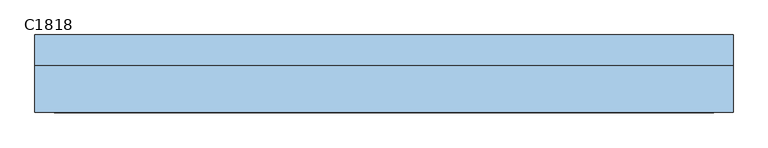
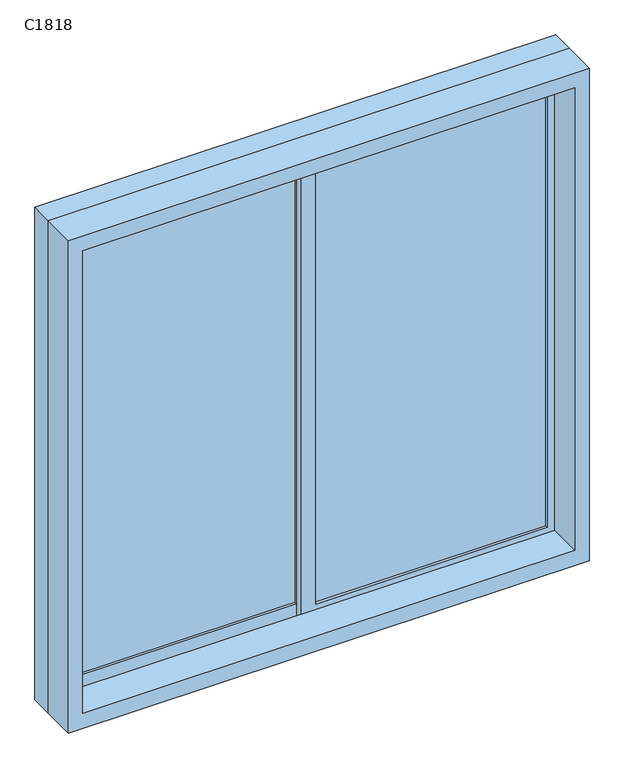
"""IFC4 building model written with IfcOpenShell, lengths in millimetres: window geometry, 推拉窗6 : C1818."""

from ifc_helpers import new_model, si_unit, frame, origin, place, context, project, spatial, polyline, outline, extrude, source, transform, mapped, element, save


def c1818_5bc19e4d(model_context):
    return source(origin(), model_context, "Body", "SweptSolid", [
        extrude(outline(polyline([(-815.475, 3.1265625), (-15.475, 3.1265625), (-15.475, -6.8734375), (-815.475, -6.8734375), (-815.475, 3.1265625)])), frame((0.0, 0.0, 675.0), z_axis=(0.0, 0.0, 1.0), x_axis=(1.0, 0.0, 0.0)), (0.0, 0.0, 1.0), 1650.0),
        extrude(outline(polyline([(34.525, -26.8734375), (834.525, -26.8734375), (834.525, -36.8734375), (34.525, -36.8734375), (34.525, -26.8734375)])), frame((0.0, 0.0, 675.0), z_axis=(0.0, 0.0, 1.0), x_axis=(1.0, 0.0, 0.0)), (0.0, 0.0, 1.0), 1650.0),
        extrude(outline(polyline([(2400.0, -890.475), (600.0, -890.475), (600.0, 909.525), (2400.0, 909.525), (2400.0, -890.475)]), holes=[polyline([(2345.0, 859.525), (655.0, 859.525), (655.0, -840.475), (2345.0, -840.475), (2345.0, 859.525)])]), frame((0.0, -166.8734375, 0.0), z_axis=(0.0, 1.0, 0.0), x_axis=(0.0, 0.0, 1.0)), (0.0, 0.0, 1.0), 120.0),
        extrude(outline(polyline([(625.0, 34.525), (2375.0, 34.525), (2375.0, -865.475), (625.0, -865.475), (625.0, 34.525)]), holes=[polyline([(675.0, -15.475), (675.0, -815.475), (2325.0, -815.475), (2325.0, -15.475), (675.0, -15.475)])]), frame((0.0, -16.8734375, 0.0), z_axis=(0.0, 1.0, 0.0), x_axis=(0.0, 0.0, 1.0)), (0.0, 0.0, 1.0), 30.0),
        extrude(outline(polyline([(2375.0, -15.475), (625.0, -15.475), (625.0, 884.525), (2375.0, 884.525), (2375.0, -15.475)]), holes=[polyline([(2325.0, 34.525), (2325.0, 834.525), (675.0, 834.525), (675.0, 34.525), (2325.0, 34.525)])]), frame((0.0, -46.8734375, 0.0), z_axis=(0.0, 1.0, 0.0), x_axis=(0.0, 0.0, 1.0)), (0.0, 0.0, 1.0), 30.0),
        extrude(outline(polyline([(2400.0, -890.475), (600.0, -890.475), (600.0, 909.525), (2400.0, 909.525), (2400.0, -890.475)]), holes=[polyline([(625.0, -865.475), (2375.0, -865.475), (2375.0, 884.525), (625.0, 884.525), (625.0, -865.475)])]), frame((0.0, -46.8734375, 0.0), z_axis=(0.0, 1.0, 0.0), x_axis=(0.0, 0.0, 1.0)), (0.0, 0.0, 1.0), 80.0),
    ])


if __name__ == "__main__":
    model = new_model("IFC4")
    model_context = context("Model", 3, world=origin())
    ifc_project = project(units=[si_unit("LENGTHUNIT", "METRE", prefix="MILLI")], contexts=[model_context])
    site = spatial("IfcSite", under=ifc_project)
    building = spatial("IfcBuilding", under=site)
    placement = place(None, origin())
    c1818_shape = c1818_5bc19e4d(model_context)
    element("IfcWindow", 1, ObjectType="推拉窗6 : C1818", at=placement, inside=building, context=model_context, shape_type="MappedRepresentation", body=[
        mapped(c1818_shape, transform((0.0, 0.0, 0.0), x_axis=(1.0, 0.0, 0.0), y_axis=(0.0, 1.0, 0.0), z_axis=(0.0, 0.0, 1.0))),
    ])
    save(model, "model.ifc")
